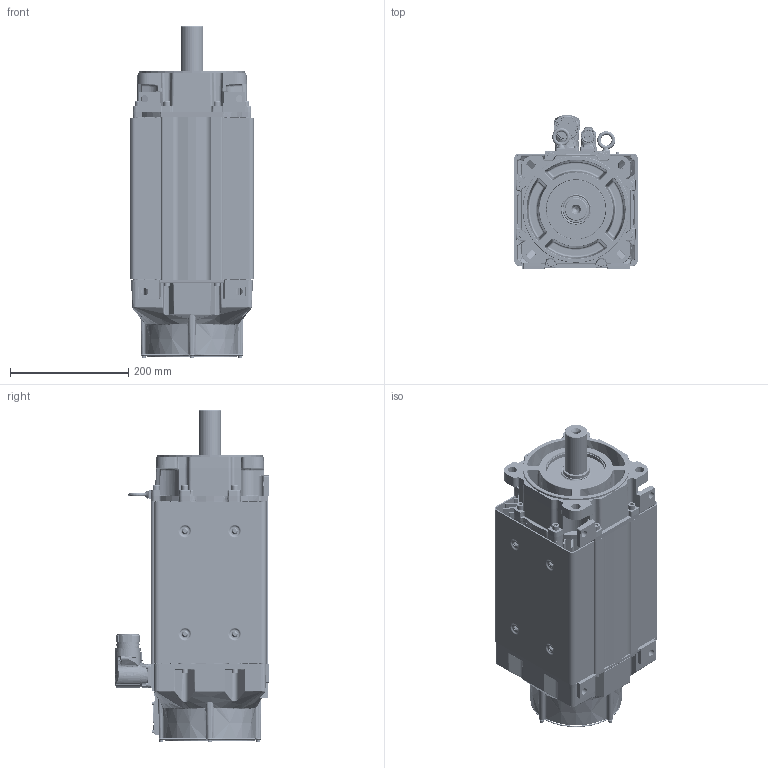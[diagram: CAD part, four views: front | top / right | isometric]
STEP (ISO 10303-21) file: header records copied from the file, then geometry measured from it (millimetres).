
FILE_DESCRIPTION((''),'2;1');
FILE_NAME('VPC-B2154A-YK72FX_ASM','2016-09-27T',('SRGaddam'),('Rockwell Automation'),'PRO/ENGINEER BY PARAMETRIC TECHNOLOGY CORPORATION, 2012480','PRO/ENGINEER BY PARAMETRIC TECHNOLOGY CORPORATION, 2012480','');
FILE_SCHEMA(('CONFIG_CONTROL_DESIGN'));
Products named in the file (46): 10001238886_AF0; 10001298482_AF22; 10001284445_ASM; CH31X150; 10001365220; 10000569218; 10001416311; 10001587021; 10001257630_AF255; 10001300098_AF227; 10001284488_ASM; 10001289764; 10002069468; 10001935397; 10001713570; 10001713572_ASM; 91290A150BR; 10001289776; CH4X050; 10001587458; 91290A115; 10001336508; 10001409703; 10001299929; 10001284567; 10001518963; 91290A148BR; 10001587431; 91290A139BR; 10000231113; 10001289808_ASM; 10001609981; 0002-5005; 10001586886; 10001369859_KEYLESS; 142403; 125284; 142403-1_ASM; 221404-Q12; M940_ASM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
Assembly tree (87 placements, depth 4):
  VPC-B2154A-YK72FX_ASM
    10001284445_ASM
      10001238886_AF0
      10001298482_AF22
    CH31X150  x8
    10001365220
    10000569218
    10001416311  x2
    10001587021  x8
    10001284488_ASM
      10001257630_AF255
      10001300098_AF227
    10001289808_ASM
      10001289764
      10002069468
      10001713572_ASM
        10001935397
        10001713570
      91290A150BR  x4
      10001289776
      CH4X050  x2
      10001587458
      91290A115  x5
      10001336508
      10001409703
      10001299929
      10001284567
      10001518963
      91290A148BR  x8
      10001587431
      91290A139BR
      10000231113
    10001609981
    0002-5005  x2
    10001586886  x6
    10001369859_KEYLESS
    M940_ASM
      142403-1_ASM
        142403
        125284
      221404-Q12  x4
    M623_ASM
      142414-1_623_ASM
        142414_623
        135798_623
      10000172464  x4
Bounding box: 210.91 x 260.15 x 560.61 mm (x, y, z)
Volume: 5590312.9 mm3; surface area: 1739716.3 mm2
Topology: 88 solids, 88 shells, 7415 faces, 17795 edges, 10859 vertices
Faces by surface type: plane 2170, cylinder 1993, bspline 1407, cone 978, torus 688, sphere 143, revolution 30, extrusion 6
Entity records: 251710 total; most frequent: CARTESIAN_POINT 116209, ORIENTED_EDGE 29418, DIRECTION 26281, EDGE_CURVE 14709, AXIS2_PLACEMENT_3D 10371, VERTEX_POINT 9098, EDGE_LOOP 6605, FACE_OUTER_BOUND 6056
